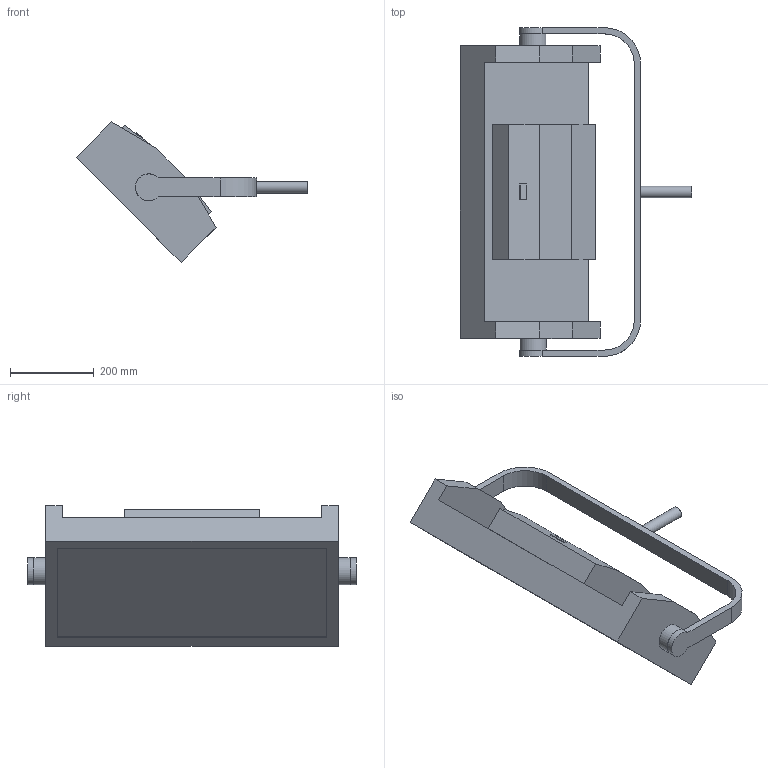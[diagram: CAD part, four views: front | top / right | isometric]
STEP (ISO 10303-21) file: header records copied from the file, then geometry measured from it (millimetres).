
FILE_DESCRIPTION(/* description */ (''),/* implementation_level */ '2;1');
FILE_NAME(/* name */ 'D:/dgooch/Documents/CADENG/PRO/onAir Panel 2 IP/45/3D/onAir Panel 2 IP_45.step',/* time_stamp */ '2021-03-16T16:30:13-04:00',/* author */ (''),/* organization */ (''),/* preprocessor_version */ 'ST-DEVELOPER v18.1',/* originating_system */ 'Autodesk Translation Framework v9.10.0.1330',/* authorisation */ '');
FILE_SCHEMA (('AUTOMOTIVE_DESIGN { 1 0 10303 214 3 1 1 }'));
Length unit declared in the file: millimetre
Products named in the file (3): onAirPanel2IP; Head; Bracket
Assembly tree (2 placements, depth 2):
  onAirPanel2IP
    Head
    Bracket
Bounding box: 554.33 x 786.9 x 336 mm (x, y, z)
Volume: 28571299.6 mm3; surface area: 1015849.1 mm2
Topology: 2 solids, 2 shells, 51 faces, 123 edges, 82 vertices
Faces by surface type: plane 42, cylinder 9
Full cylindrical faces by diameter (mm): 28 x1, 64.365 x2
Entity records: 1560 total; most frequent: CARTESIAN_POINT 261, DIRECTION 253, ORIENTED_EDGE 246, EDGE_CURVE 123, LINE 105, VECTOR 105, VERTEX_POINT 82, AXIS2_PLACEMENT_3D 74
